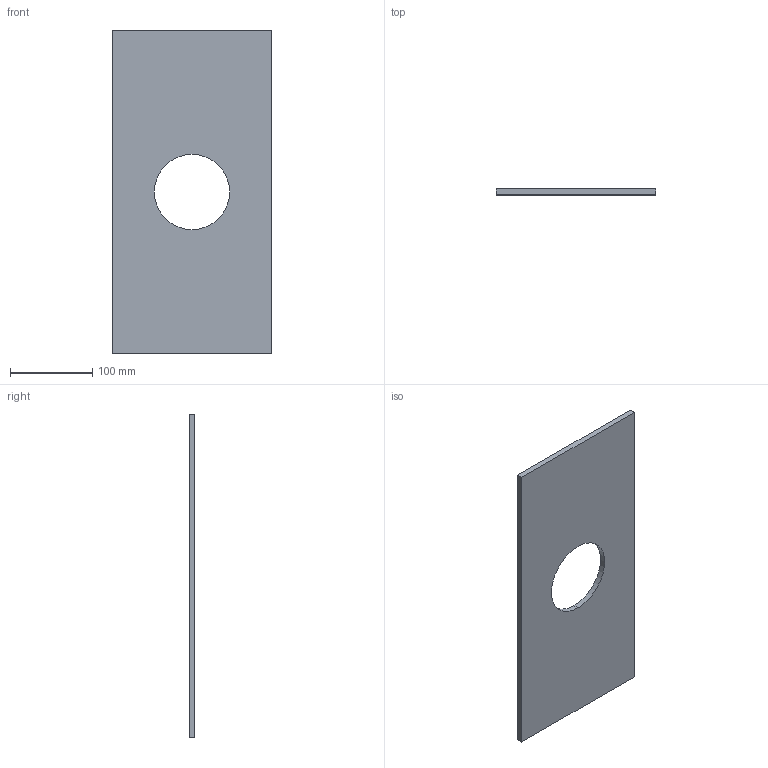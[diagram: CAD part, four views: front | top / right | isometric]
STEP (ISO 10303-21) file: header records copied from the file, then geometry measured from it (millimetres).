
FILE_DESCRIPTION (( 'STEP AP214' ), '1' );
FILE_NAME ('R43_196x396x7_90.STEP', '2016-02-05T20:08:00', ( '' ), ( '' ), 'SwSTEP 2.0', 'SolidWorks 2014', '' );
FILE_SCHEMA (( 'AUTOMOTIVE_DESIGN' ));
Length unit declared in the file: millimetre
Products named in the file (1): R43_196x396x7_90
Bounding box: 194 x 7 x 394 mm (x, y, z)
Volume: 489023.2 mm3; surface area: 149965.1 mm2
Topology: 1 solids, 1 shells, 8 faces, 18 edges, 12 vertices
Faces by surface type: plane 6, cylinder 2
Entity records: 264 total; most frequent: DIRECTION 40, CARTESIAN_POINT 39, ORIENTED_EDGE 36, EDGE_CURVE 18, LINE 14, VECTOR 14, AXIS2_PLACEMENT_3D 13, VERTEX_POINT 12
